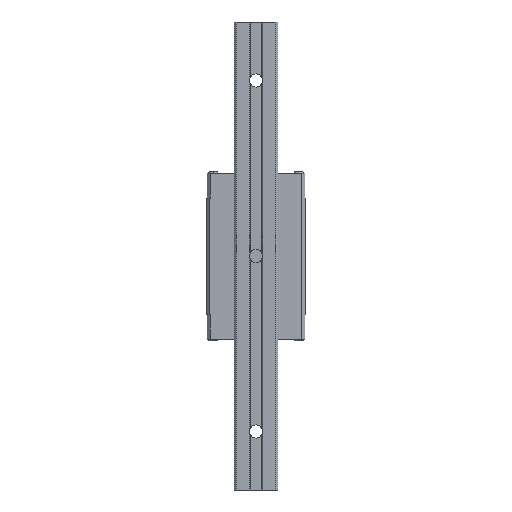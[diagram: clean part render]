
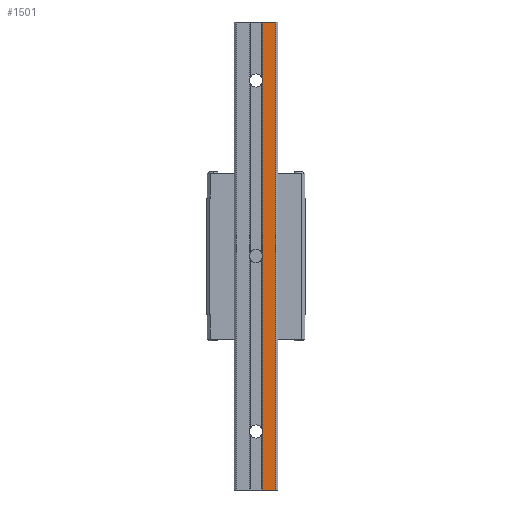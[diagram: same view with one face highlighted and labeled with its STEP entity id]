
A CAD part, front view. The second image highlights one B-rep face of the part: STEP entity #1501.
In plain terms, the highlighted planar face has unit normal (0, -1, 0).
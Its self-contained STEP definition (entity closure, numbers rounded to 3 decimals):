
#43 = VERTEX_POINT ( 'NONE', #12190 ) ;
#495 = CARTESIAN_POINT ( 'NONE',  ( 0., -24., -60. ) ) ;
#968 = LINE ( 'NONE', #4629, #5680 ) ;
#1001 = VERTEX_POINT ( 'NONE', #1728 ) ;
#1501 = ADVANCED_FACE ( 'NONE', ( #15793 ), #4208, .T. ) ;
#1728 = CARTESIAN_POINT ( 'NONE',  ( 6.8, -24., -60. ) ) ;
#2289 = EDGE_CURVE ( 'NONE', #43, #13292, #10630, .T. ) ;
#4087 = LINE ( 'NONE', #9232, #7959 ) ;
#4208 = PLANE ( 'NONE',  #11673 ) ;
#4629 = CARTESIAN_POINT ( 'NONE',  ( 0., -24., 100. ) ) ;
#5552 = CARTESIAN_POINT ( 'NONE',  ( 2.35, -24., 50. ) ) ;
#5680 = VECTOR ( 'NONE', #7321, 1000. ) ;
#6041 = ORIENTED_EDGE ( 'NONE', *, *, #14451, .T. ) ;
#6072 = DIRECTION ( 'NONE',  ( 0., 0., -1. ) ) ;
#6227 = EDGE_CURVE ( 'NONE', #1001, #13292, #12180, .T. ) ;
#6809 = DIRECTION ( 'NONE',  ( -1., 0., 0. ) ) ;
#7176 = CARTESIAN_POINT ( 'NONE',  ( 6.8, -24., 50. ) ) ;
#7301 = VECTOR ( 'NONE', #15596, 1000. ) ;
#7321 = DIRECTION ( 'NONE',  ( -1., 0., 0. ) ) ;
#7959 = VECTOR ( 'NONE', #15749, 1000. ) ;
#9232 = CARTESIAN_POINT ( 'NONE',  ( 6.8, -24., 50. ) ) ;
#9249 = CARTESIAN_POINT ( 'NONE',  ( 6.8, -24., 100. ) ) ;
#10630 = LINE ( 'NONE', #5552, #7301 ) ;
#10927 = DIRECTION ( 'NONE',  ( 0., -1., 0. ) ) ;
#11195 = EDGE_CURVE ( 'NONE', #16083, #43, #968, .T. ) ;
#11468 = ORIENTED_EDGE ( 'NONE', *, *, #6227, .F. ) ;
#11673 = AXIS2_PLACEMENT_3D ( 'NONE', #7176, #10927, #6072 ) ;
#12180 = LINE ( 'NONE', #495, #12656 ) ;
#12190 = CARTESIAN_POINT ( 'NONE',  ( 2.35, -24., 100. ) ) ;
#12656 = VECTOR ( 'NONE', #6809, 1000. ) ;
#13292 = VERTEX_POINT ( 'NONE', #16581 ) ;
#13561 = EDGE_LOOP ( 'NONE', ( #16524, #11468, #6041, #15906 ) ) ;
#14451 = EDGE_CURVE ( 'NONE', #1001, #16083, #4087, .T. ) ;
#15596 = DIRECTION ( 'NONE',  ( 0., 0., -1. ) ) ;
#15749 = DIRECTION ( 'NONE',  ( 0., 0., 1. ) ) ;
#15793 = FACE_OUTER_BOUND ( 'NONE', #13561, .T. ) ;
#15906 = ORIENTED_EDGE ( 'NONE', *, *, #11195, .T. ) ;
#16083 = VERTEX_POINT ( 'NONE', #9249 ) ;
#16524 = ORIENTED_EDGE ( 'NONE', *, *, #2289, .T. ) ;
#16581 = CARTESIAN_POINT ( 'NONE',  ( 2.35, -24., -60. ) ) ;
